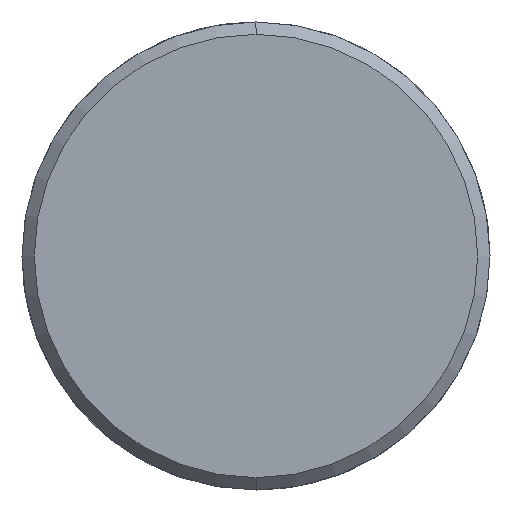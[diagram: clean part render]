
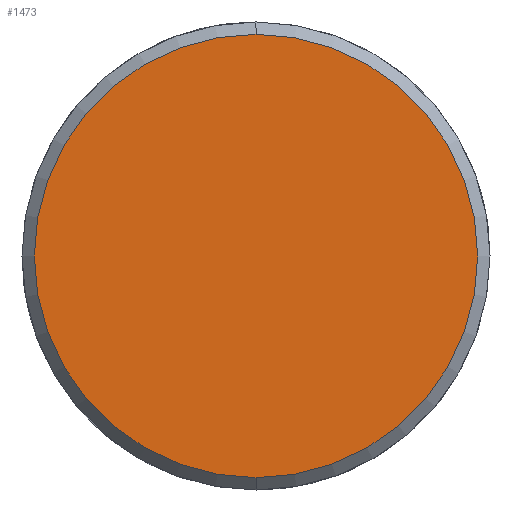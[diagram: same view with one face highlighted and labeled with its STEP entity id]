
A CAD part, left-side view. The second image highlights one B-rep face of the part: STEP entity #1473.
In plain terms, the highlighted planar face has unit normal (-1, 0, 0).
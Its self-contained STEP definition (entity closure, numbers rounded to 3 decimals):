
#1405=CARTESIAN_POINT('Vertex',(-7.,0.,-18.)) ;
#1408=CARTESIAN_POINT('Axis2P3D Location',(-7.,0.,0.)) ;
#1412=CARTESIAN_POINT('Vertex',(-7.,18.,0.)) ;
#1415=CARTESIAN_POINT('Axis2P3D Location',(-7.,0.,0.)) ;
#1419=CARTESIAN_POINT('Vertex',(-7.,0.,18.)) ;
#1441=CARTESIAN_POINT('Axis2P3D Location',(-7.,0.,0.)) ;
#1445=CARTESIAN_POINT('Vertex',(-7.,-18.,0.)) ;
#1448=CARTESIAN_POINT('Axis2P3D Location',(-7.,0.,0.)) ;
#1462=CARTESIAN_POINT('Axis2P3D Location',(-7.,0.,0.)) ;
#1409=DIRECTION('Axis2P3D Direction',(1.,0.,-0.)) ;
#1416=DIRECTION('Axis2P3D Direction',(1.,0.,-0.)) ;
#1442=DIRECTION('Axis2P3D Direction',(1.,0.,-0.)) ;
#1449=DIRECTION('Axis2P3D Direction',(1.,0.,-0.)) ;
#1463=DIRECTION('Axis2P3D Direction',(1.,0.,-0.)) ;
#1464=DIRECTION('Axis2P3D XDirection',(-0.,0.,-1.)) ;
#1410=AXIS2_PLACEMENT_3D('Circle Axis2P3D',#1408,#1409,$) ;
#1417=AXIS2_PLACEMENT_3D('Circle Axis2P3D',#1415,#1416,$) ;
#1443=AXIS2_PLACEMENT_3D('Circle Axis2P3D',#1441,#1442,$) ;
#1450=AXIS2_PLACEMENT_3D('Circle Axis2P3D',#1448,#1449,$) ;
#1465=AXIS2_PLACEMENT_3D('Plane Axis2P3D',#1462,#1463,#1464) ;
#1468=ORIENTED_EDGE('',*,*,#1414,.F.) ;
#1469=ORIENTED_EDGE('',*,*,#1452,.F.) ;
#1470=ORIENTED_EDGE('',*,*,#1447,.F.) ;
#1471=ORIENTED_EDGE('',*,*,#1421,.F.) ;
#1473=ADVANCED_FACE('351-25X56X240',(#1472),#1466,.F.) ;
#1411=CIRCLE('generated circle',#1410,18.) ;
#1418=CIRCLE('generated circle',#1417,18.) ;
#1444=CIRCLE('generated circle',#1443,18.) ;
#1451=CIRCLE('generated circle',#1450,18.) ;
#1414=EDGE_CURVE('',#1406,#1413,#1411,.T.) ;
#1421=EDGE_CURVE('',#1413,#1420,#1418,.T.) ;
#1447=EDGE_CURVE('',#1420,#1446,#1444,.T.) ;
#1452=EDGE_CURVE('',#1446,#1406,#1451,.T.) ;
#1467=EDGE_LOOP('',(#1468,#1469,#1470,#1471)) ;
#1472=FACE_OUTER_BOUND('',#1467,.T.) ;
#1466=PLANE('Plane',#1465) ;
#1406=VERTEX_POINT('',#1405) ;
#1413=VERTEX_POINT('',#1412) ;
#1420=VERTEX_POINT('',#1419) ;
#1446=VERTEX_POINT('',#1445) ;
